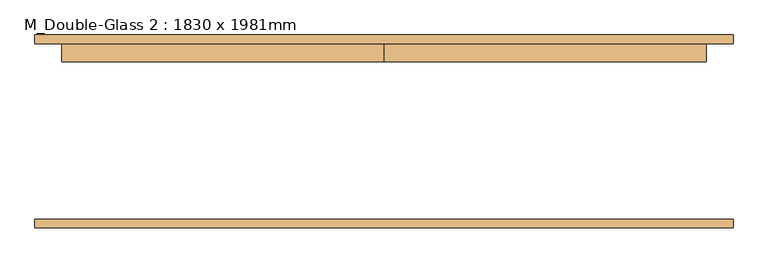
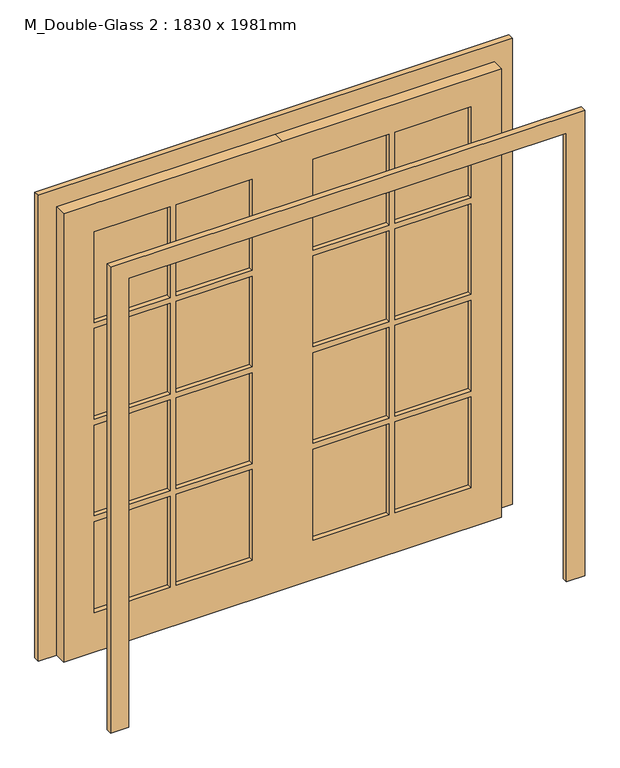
"""IFC4 building model written with IfcOpenShell, lengths in millimetres: door geometry, M_Double-Glass 2 : 1830 x 1981mm."""

from ifc_helpers import new_model, si_unit, frame, origin, place, context, project, spatial, polyline, outline, extrude, source, transform, mapped, element, save


def m_double_glass_2_1830_x_1981mm_a8427099(model_context):
    return source(origin(), model_context, "Body", "SweptSolid", [
        extrude(outline(polyline([(470.0, 229.95), (788.0, 229.95), (788.0, 217.25), (470.0, 217.25), (470.0, 229.95)])), frame((0.0, 0.0, 1454.5), z_axis=(0.0, 0.0, 1.0), x_axis=(1.0, 0.0, 0.0)), (0.0, 0.0, 1.0), 401.5),
        extrude(outline(polyline([(127.0, 229.95), (445.0, 229.95), (445.0, 217.25), (127.0, 217.25), (127.0, 229.95)])), frame((0.0, 0.0, 1454.5), z_axis=(0.0, 0.0, 1.0), x_axis=(1.0, 0.0, 0.0)), (0.0, 0.0, 1.0), 401.5),
        extrude(outline(polyline([(-445.0, 229.95), (-127.0, 229.95), (-127.0, 217.25), (-445.0, 217.25), (-445.0, 229.95)])), frame((0.0, 0.0, 1454.5), z_axis=(0.0, 0.0, 1.0), x_axis=(1.0, 0.0, 0.0)), (0.0, 0.0, 1.0), 401.5),
        extrude(outline(polyline([(-788.0, 229.95), (-470.0, 229.95), (-470.0, 217.25), (-788.0, 217.25), (-788.0, 229.95)])), frame((0.0, 0.0, 1454.5), z_axis=(0.0, 0.0, 1.0), x_axis=(1.0, 0.0, 0.0)), (0.0, 0.0, 1.0), 401.5),
        extrude(outline(polyline([(-788.0, 229.95), (-470.0, 229.95), (-470.0, 217.25), (-788.0, 217.25), (-788.0, 229.95)])), frame((0.0, 0.0, 1028.0), z_axis=(0.0, 0.0, 1.0), x_axis=(1.0, 0.0, 0.0)), (0.0, 0.0, 1.0), 401.5),
        extrude(outline(polyline([(-445.0, 229.95), (-127.0, 229.95), (-127.0, 217.25), (-445.0, 217.25), (-445.0, 229.95)])), frame((0.0, 0.0, 1028.0), z_axis=(0.0, 0.0, 1.0), x_axis=(1.0, 0.0, 0.0)), (0.0, 0.0, 1.0), 401.5),
        extrude(outline(polyline([(127.0, 229.95), (445.0, 229.95), (445.0, 217.25), (127.0, 217.25), (127.0, 229.95)])), frame((0.0, 0.0, 1028.0), z_axis=(0.0, 0.0, 1.0), x_axis=(1.0, 0.0, 0.0)), (0.0, 0.0, 1.0), 401.5),
        extrude(outline(polyline([(470.0, 229.95), (788.0, 229.95), (788.0, 217.25), (470.0, 217.25), (470.0, 229.95)])), frame((0.0, 0.0, 1028.0), z_axis=(0.0, 0.0, 1.0), x_axis=(1.0, 0.0, 0.0)), (0.0, 0.0, 1.0), 401.5),
        extrude(outline(polyline([(470.0, 229.95), (788.0, 229.95), (788.0, 217.25), (470.0, 217.25), (470.0, 229.95)])), frame((0.0, 0.0, 601.5), z_axis=(0.0, 0.0, 1.0), x_axis=(1.0, 0.0, 0.0)), (0.0, 0.0, 1.0), 401.5),
        extrude(outline(polyline([(127.0, 229.95), (445.0, 229.95), (445.0, 217.25), (127.0, 217.25), (127.0, 229.95)])), frame((0.0, 0.0, 601.5), z_axis=(0.0, 0.0, 1.0), x_axis=(1.0, 0.0, 0.0)), (0.0, 0.0, 1.0), 401.5),
        extrude(outline(polyline([(-445.0, 229.95), (-127.0, 229.95), (-127.0, 217.25), (-445.0, 217.25), (-445.0, 229.95)])), frame((0.0, 0.0, 601.5), z_axis=(0.0, 0.0, 1.0), x_axis=(1.0, 0.0, 0.0)), (0.0, 0.0, 1.0), 401.5),
        extrude(outline(polyline([(-788.0, 229.95), (-470.0, 229.95), (-470.0, 217.25), (-788.0, 217.25), (-788.0, 229.95)])), frame((0.0, 0.0, 601.5), z_axis=(0.0, 0.0, 1.0), x_axis=(1.0, 0.0, 0.0)), (0.0, 0.0, 1.0), 401.5),
        extrude(outline(polyline([(470.0, 229.95), (788.0, 229.95), (788.0, 217.25), (470.0, 217.25), (470.0, 229.95)])), frame((0.0, 0.0, 175.0), z_axis=(0.0, 0.0, 1.0), x_axis=(1.0, 0.0, 0.0)), (0.0, 0.0, 1.0), 401.5),
        extrude(outline(polyline([(127.0, 229.95), (445.0, 229.95), (445.0, 217.25), (127.0, 217.25), (127.0, 229.95)])), frame((0.0, 0.0, 175.0), z_axis=(0.0, 0.0, 1.0), x_axis=(1.0, 0.0, 0.0)), (0.0, 0.0, 1.0), 401.5),
        extrude(outline(polyline([(-445.0, 229.95), (-127.0, 229.95), (-127.0, 217.25), (-445.0, 217.25), (-445.0, 229.95)])), frame((0.0, 0.0, 175.0), z_axis=(0.0, 0.0, 1.0), x_axis=(1.0, 0.0, 0.0)), (0.0, 0.0, 1.0), 401.5),
        extrude(outline(polyline([(-788.0, 229.95), (-470.0, 229.95), (-470.0, 217.25), (-788.0, 217.25), (-788.0, 229.95)])), frame((0.0, 0.0, 175.0), z_axis=(0.0, 0.0, 1.0), x_axis=(1.0, 0.0, 0.0)), (0.0, 0.0, 1.0), 401.5),
        extrude(outline(polyline([(1981.0, 0.0), (1981.0, -915.0), (0.0, -915.0), (0.0, 0.0), (0.0, 915.0), (1981.0, 915.0), (1981.0, 0.0)]), holes=[polyline([(1856.0, 470.0), (1856.0, 788.0), (1454.5, 788.0), (1454.5, 470.0), (1856.0, 470.0)]), polyline([(1856.0, 127.0), (1856.0, 445.0), (1454.5, 445.0), (1454.5, 127.0), (1856.0, 127.0)]), polyline([(1429.5, 470.0), (1429.5, 788.0), (1028.0, 788.0), (1028.0, 470.0), (1429.5, 470.0)]), polyline([(1429.5, 127.0), (1429.5, 445.0), (1028.0, 445.0), (1028.0, 127.0), (1429.5, 127.0)]), polyline([(1003.0, 470.0), (1003.0, 788.0), (601.5, 788.0), (601.5, 470.0), (1003.0, 470.0)]), polyline([(1003.0, 127.0), (1003.0, 445.0), (601.5, 445.0), (601.5, 127.0), (1003.0, 127.0)]), polyline([(576.5, 470.0), (576.5, 788.0), (175.0, 788.0), (175.0, 470.0), (576.5, 470.0)]), polyline([(576.5, 127.0), (576.5, 445.0), (175.0, 445.0), (175.0, 127.0), (576.5, 127.0)]), polyline([(1856.0, -445.0), (1856.0, -127.0), (1454.5, -127.0), (1454.5, -445.0), (1856.0, -445.0)]), polyline([(1429.5, -445.0), (1429.5, -127.0), (1028.0, -127.0), (1028.0, -445.0), (1429.5, -445.0)]), polyline([(1429.5, -470.0), (1028.0, -470.0), (1028.0, -788.0), (1429.5, -788.0), (1429.5, -470.0)]), polyline([(1003.0, -445.0), (1003.0, -127.0), (601.5, -127.0), (601.5, -445.0), (1003.0, -445.0)]), polyline([(1003.0, -470.0), (601.5, -470.0), (601.5, -788.0), (1003.0, -788.0), (1003.0, -470.0)]), polyline([(576.5, -445.0), (576.5, -127.0), (175.0, -127.0), (175.0, -445.0), (576.5, -445.0)]), polyline([(576.5, -788.0), (576.5, -470.0), (175.0, -470.0), (175.0, -788.0), (576.5, -788.0)]), polyline([(1454.5, -470.0), (1454.5, -788.0), (1856.0, -788.0), (1856.0, -470.0), (1454.5, -470.0)])]), frame((0.0, 198.0, 0.0), z_axis=(0.0, 1.0, 0.0), x_axis=(0.0, 0.0, 1.0)), (0.0, 0.0, 1.0), 51.0),
        extrude(outline(polyline([(1981.0, -915.0), (1981.0, 915.0), (0.0, 915.0), (0.0, 991.0), (2057.0, 991.0), (2057.0, -991.0), (0.0, -991.0), (0.0, -915.0), (1981.0, -915.0)])), frame((0.0, -274.0, 0.0), z_axis=(0.0, 1.0, 0.0), x_axis=(0.0, 0.0, 1.0)), (0.0, 0.0, 1.0), 25.0),
        extrude(outline(polyline([(1981.0, -915.0), (1981.0, 915.0), (0.0, 915.0), (0.0, 991.0), (2057.0, 991.0), (2057.0, -991.0), (0.0, -991.0), (0.0, -915.0), (1981.0, -915.0)])), frame((0.0, 249.0, 0.0), z_axis=(0.0, 1.0, 0.0), x_axis=(0.0, 0.0, 1.0)), (0.0, 0.0, 1.0), 25.0),
    ])


if __name__ == "__main__":
    model = new_model("IFC4")
    model_context = context("Model", 3, world=origin())
    ifc_project = project(units=[si_unit("LENGTHUNIT", "METRE", prefix="MILLI")], contexts=[model_context])
    site = spatial("IfcSite", under=ifc_project)
    building = spatial("IfcBuilding", under=site)
    placement = place(None, origin())
    m_double_glass_2_1830_x_1981mm_shape = m_double_glass_2_1830_x_1981mm_a8427099(model_context)
    element("IfcDoor", 1, ObjectType="M_Double-Glass 2 : 1830 x 1981mm", at=placement, inside=building, context=model_context, shape_type="MappedRepresentation", body=[
        mapped(m_double_glass_2_1830_x_1981mm_shape, transform((0.0, 0.0, 0.0), x_axis=(1.0, 0.0, 0.0), y_axis=(0.0, 1.0, 0.0), z_axis=(0.0, 0.0, 1.0))),
    ])
    save(model, "model.ifc")
